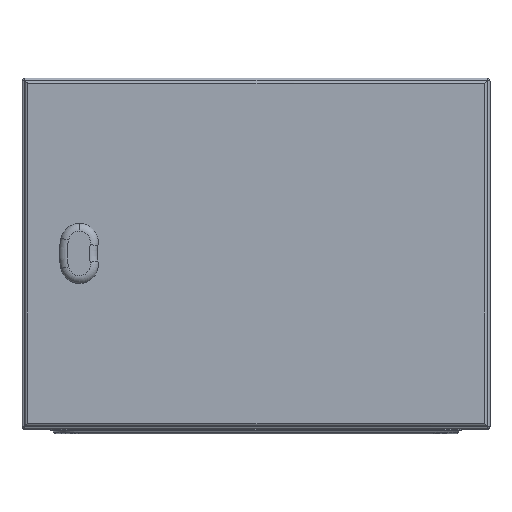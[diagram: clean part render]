
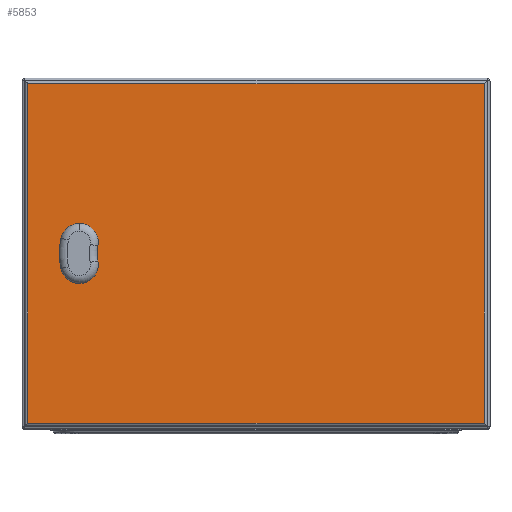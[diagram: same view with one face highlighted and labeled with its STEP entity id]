
A CAD part, top view. The second image highlights one B-rep face of the part: STEP entity #5853.
In plain terms, the highlighted planar face has unit normal (0, 0, 1) as drawn and (0, 0, -1) by its records, which use the part's own axes.
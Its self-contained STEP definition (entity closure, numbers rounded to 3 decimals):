
#151 = CIRCLE ( 'NONE', #9104, 11.25 ) ;
#185 = CARTESIAN_POINT ( 'NONE',  ( 156.056, -10.05, 0. ) ) ;
#337 = ORIENTED_EDGE ( 'NONE', *, *, #598, .F. ) ;
#598 = EDGE_CURVE ( 'NONE', #1569, #14457, #2917, .T. ) ;
#959 = LINE ( 'NONE', #9490, #17677 ) ;
#1079 = CARTESIAN_POINT ( 'NONE',  ( 151., 0., 0. ) ) ;
#1389 = ORIENTED_EDGE ( 'NONE', *, *, #19030, .T. ) ;
#1501 = VERTEX_POINT ( 'NONE', #20466 ) ;
#1569 = VERTEX_POINT ( 'NONE', #21101 ) ;
#1800 = CARTESIAN_POINT ( 'NONE',  ( 195., 145., 0. ) ) ;
#1921 = VERTEX_POINT ( 'NONE', #185 ) ;
#2090 = EDGE_LOOP ( 'NONE', ( #19952, #10406, #1389, #9979 ) ) ;
#2118 = EDGE_CURVE ( 'NONE', #13676, #1501, #16043, .T. ) ;
#2200 = CARTESIAN_POINT ( 'NONE',  ( -195., 147.5, 0. ) ) ;
#2479 = CARTESIAN_POINT ( 'NONE',  ( 145.944, 10.05, 0. ) ) ;
#2917 = CIRCLE ( 'NONE', #9728, 11.25 ) ;
#2984 = DIRECTION ( 'NONE',  ( 1., 0., 0. ) ) ;
#3392 = DIRECTION ( 'NONE',  ( 0., 0., -1. ) ) ;
#3753 = ORIENTED_EDGE ( 'NONE', *, *, #12156, .F. ) ;
#4028 = DIRECTION ( 'NONE',  ( 1., 0., 0. ) ) ;
#4107 = LINE ( 'NONE', #2200, #17297 ) ;
#4448 = CIRCLE ( 'NONE', #11603, 11.25 ) ;
#5113 = ORIENTED_EDGE ( 'NONE', *, *, #18468, .F. ) ;
#5158 = LINE ( 'NONE', #17121, #20833 ) ;
#5501 = DIRECTION ( 'NONE',  ( -1., 0., 0. ) ) ;
#5732 = CARTESIAN_POINT ( 'NONE',  ( 156.056, 10.05, 0. ) ) ;
#5741 = VERTEX_POINT ( 'NONE', #17961 ) ;
#5853 = ADVANCED_FACE ( 'NONE', ( #18291, #20412 ), #8352, .T. ) ;
#6526 = CARTESIAN_POINT ( 'NONE',  ( -195., 145., 0. ) ) ;
#8149 = DIRECTION ( 'NONE',  ( -1., 0., 0. ) ) ;
#8352 = PLANE ( 'NONE',  #9588 ) ;
#8773 = CARTESIAN_POINT ( 'NONE',  ( 151., 0., 0. ) ) ;
#9104 = AXIS2_PLACEMENT_3D ( 'NONE', #10722, #12620, #17503 ) ;
#9490 = CARTESIAN_POINT ( 'NONE',  ( 161.05, -5.056, 0. ) ) ;
#9588 = AXIS2_PLACEMENT_3D ( 'NONE', #15062, #9724, #8149 ) ;
#9637 = CARTESIAN_POINT ( 'NONE',  ( 151., 0., 0. ) ) ;
#9724 = DIRECTION ( 'NONE',  ( 0., 0., -1. ) ) ;
#9728 = AXIS2_PLACEMENT_3D ( 'NONE', #1079, #11501, #2984 ) ;
#9957 = CARTESIAN_POINT ( 'NONE',  ( 161.05, -5.056, 0. ) ) ;
#9979 = ORIENTED_EDGE ( 'NONE', *, *, #2118, .T. ) ;
#10013 = LINE ( 'NONE', #17794, #19719 ) ;
#10186 = VECTOR ( 'NONE', #16282, 1000. ) ;
#10406 = ORIENTED_EDGE ( 'NONE', *, *, #20702, .T. ) ;
#10621 = VERTEX_POINT ( 'NONE', #9957 ) ;
#10722 = CARTESIAN_POINT ( 'NONE',  ( 151., 0., 0. ) ) ;
#10847 = EDGE_CURVE ( 'NONE', #11457, #1569, #15831, .T. ) ;
#11457 = VERTEX_POINT ( 'NONE', #11568 ) ;
#11501 = DIRECTION ( 'NONE',  ( 0., 0., -1. ) ) ;
#11568 = CARTESIAN_POINT ( 'NONE',  ( 140.95, -5.056, 0. ) ) ;
#11603 = AXIS2_PLACEMENT_3D ( 'NONE', #8773, #3392, #5501 ) ;
#11940 = VECTOR ( 'NONE', #20972, 1000. ) ;
#12156 = EDGE_CURVE ( 'NONE', #5741, #10621, #959, .T. ) ;
#12620 = DIRECTION ( 'NONE',  ( 0., 0., -1. ) ) ;
#12773 = DIRECTION ( 'NONE',  ( -1., 0., 0. ) ) ;
#13029 = ORIENTED_EDGE ( 'NONE', *, *, #17262, .F. ) ;
#13295 = ORIENTED_EDGE ( 'NONE', *, *, #13951, .F. ) ;
#13671 = DIRECTION ( 'NONE',  ( 1., 0., 0. ) ) ;
#13676 = VERTEX_POINT ( 'NONE', #14749 ) ;
#13847 = EDGE_CURVE ( 'NONE', #1501, #17595, #4107, .T. ) ;
#13951 = EDGE_CURVE ( 'NONE', #22040, #5741, #151, .T. ) ;
#14176 = CARTESIAN_POINT ( 'NONE',  ( -197.5, -145., 0. ) ) ;
#14184 = EDGE_CURVE ( 'NONE', #20321, #11457, #4448, .T. ) ;
#14195 = DIRECTION ( 'NONE',  ( 0., 1., 0. ) ) ;
#14322 = DIRECTION ( 'NONE',  ( 0., 0., -1. ) ) ;
#14332 = ORIENTED_EDGE ( 'NONE', *, *, #14184, .F. ) ;
#14440 = AXIS2_PLACEMENT_3D ( 'NONE', #9637, #14322, #12773 ) ;
#14457 = VERTEX_POINT ( 'NONE', #2479 ) ;
#14749 = CARTESIAN_POINT ( 'NONE',  ( 195., -145., 0. ) ) ;
#14995 = EDGE_LOOP ( 'NONE', ( #14332, #13029, #5113, #3753, #13295, #15594, #337, #18851 ) ) ;
#15062 = CARTESIAN_POINT ( 'NONE',  ( 197.5, 147.5, 0. ) ) ;
#15255 = VECTOR ( 'NONE', #18842, 1000. ) ;
#15594 = ORIENTED_EDGE ( 'NONE', *, *, #20473, .F. ) ;
#15696 = LINE ( 'NONE', #15800, #15255 ) ;
#15771 = CARTESIAN_POINT ( 'NONE',  ( 197.5, 145., 0. ) ) ;
#15800 = CARTESIAN_POINT ( 'NONE',  ( 156.056, -10.05, 0. ) ) ;
#15831 = LINE ( 'NONE', #16051, #10186 ) ;
#16000 = LINE ( 'NONE', #15771, #21590 ) ;
#16043 = LINE ( 'NONE', #14176, #11940 ) ;
#16051 = CARTESIAN_POINT ( 'NONE',  ( 140.95, -5.056, 0. ) ) ;
#16282 = DIRECTION ( 'NONE',  ( 0., 1., 0. ) ) ;
#17121 = CARTESIAN_POINT ( 'NONE',  ( 156.056, 10.05, 0. ) ) ;
#17262 = EDGE_CURVE ( 'NONE', #1921, #20321, #15696, .T. ) ;
#17297 = VECTOR ( 'NONE', #14195, 1000. ) ;
#17503 = DIRECTION ( 'NONE',  ( 1., 0., 0. ) ) ;
#17595 = VERTEX_POINT ( 'NONE', #6526 ) ;
#17677 = VECTOR ( 'NONE', #21083, 1000. ) ;
#17794 = CARTESIAN_POINT ( 'NONE',  ( 195., -147.5, 0. ) ) ;
#17961 = CARTESIAN_POINT ( 'NONE',  ( 161.05, 5.056, 0. ) ) ;
#17994 = CIRCLE ( 'NONE', #14440, 11.25 ) ;
#18291 = FACE_BOUND ( 'NONE', #14995, .T. ) ;
#18468 = EDGE_CURVE ( 'NONE', #10621, #1921, #17994, .T. ) ;
#18842 = DIRECTION ( 'NONE',  ( -1., 0., 0. ) ) ;
#18851 = ORIENTED_EDGE ( 'NONE', *, *, #10847, .F. ) ;
#19030 = EDGE_CURVE ( 'NONE', #20576, #13676, #10013, .T. ) ;
#19719 = VECTOR ( 'NONE', #20815, 1000. ) ;
#19952 = ORIENTED_EDGE ( 'NONE', *, *, #13847, .T. ) ;
#20321 = VERTEX_POINT ( 'NONE', #20525 ) ;
#20412 = FACE_OUTER_BOUND ( 'NONE', #2090, .T. ) ;
#20466 = CARTESIAN_POINT ( 'NONE',  ( -195., -145., 0. ) ) ;
#20473 = EDGE_CURVE ( 'NONE', #14457, #22040, #5158, .T. ) ;
#20525 = CARTESIAN_POINT ( 'NONE',  ( 145.944, -10.05, 0. ) ) ;
#20576 = VERTEX_POINT ( 'NONE', #1800 ) ;
#20702 = EDGE_CURVE ( 'NONE', #17595, #20576, #16000, .T. ) ;
#20815 = DIRECTION ( 'NONE',  ( 0., -1., 0. ) ) ;
#20833 = VECTOR ( 'NONE', #13671, 1000. ) ;
#20972 = DIRECTION ( 'NONE',  ( -1., 0., 0. ) ) ;
#21083 = DIRECTION ( 'NONE',  ( 0., -1., 0. ) ) ;
#21101 = CARTESIAN_POINT ( 'NONE',  ( 140.95, 5.056, 0. ) ) ;
#21590 = VECTOR ( 'NONE', #4028, 1000. ) ;
#22040 = VERTEX_POINT ( 'NONE', #5732 ) ;
